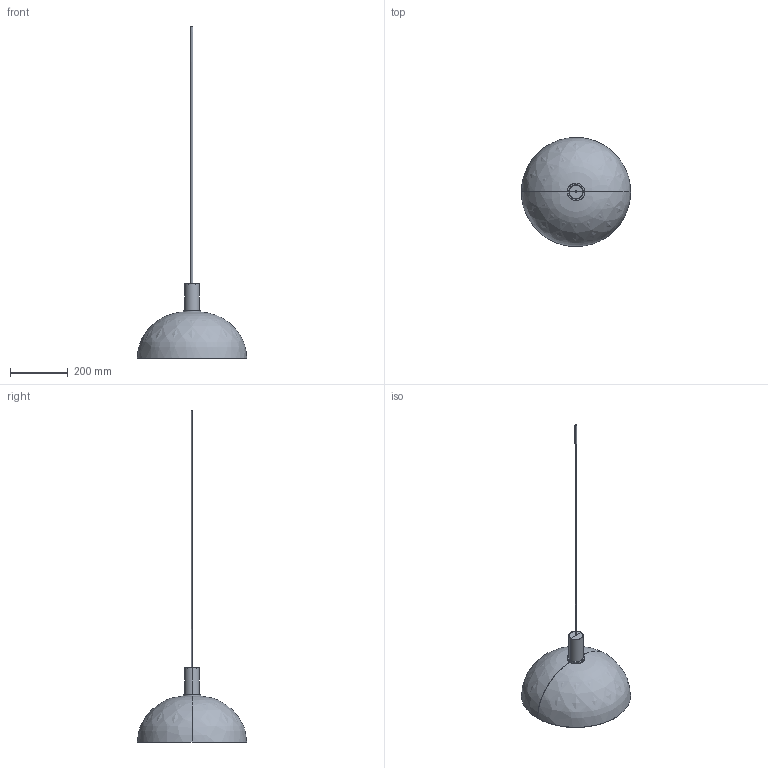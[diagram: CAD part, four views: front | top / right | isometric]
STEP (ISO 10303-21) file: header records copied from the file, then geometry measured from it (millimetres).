
FILE_DESCRIPTION(/* description */ (''),/* implementation_level */ '2;1');
FILE_NAME(/* name */ 'C659VT~A',/* time_stamp */ '2018-04-03T17:10:37+02:00',/* author */ (''),/* organization */ (''),/* preprocessor_version */ 'ST-DEVELOPER v15',/* originating_system */ '',/* authorisation */ '');
FILE_SCHEMA (('AUTOMOTIVE_DESIGN'));
Length unit declared in the file: millimetre
Products named in the file (1): Document
Bounding box: 380 x 379.66 x 1154.94 mm (x, y, z)
Volume: 272867 mm3; surface area: 468085.8 mm2
Topology: 4 solids, 4 shells, 38 faces, 74 edges, 40 vertices
Faces by surface type: bspline 38
Entity records: 2120 total; most frequent: CARTESIAN_POINT 1178, B_SPLINE_CURVE_WITH_KNOTS 154, ORIENTED_EDGE 148, PCURVE 148, DEFINITIONAL_REPRESENTATION 148, SURFACE_CURVE 74, EDGE_CURVE 74, EDGE_LOOP 40
